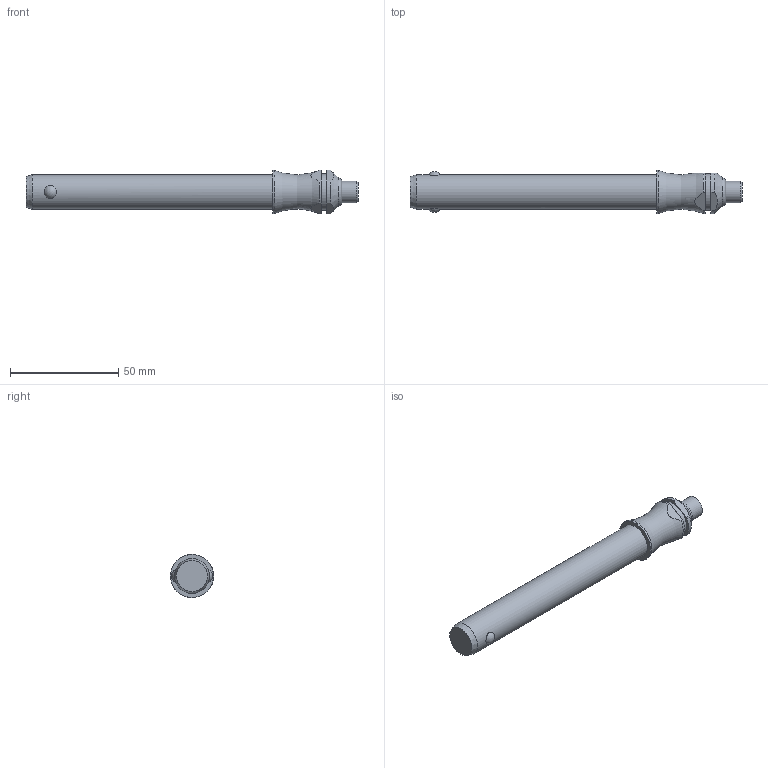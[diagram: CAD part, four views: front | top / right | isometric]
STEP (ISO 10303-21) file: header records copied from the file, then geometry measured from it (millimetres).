
FILE_DESCRIPTION( ( 'STEP AP203' ), '1' );
FILE_NAME( 'C:/Temp/Ganter_Step_05_03_2020/data/3_1/gn113_3/Stainless Steel-Ball lock pin GN 113.3-16-100 (deactivated).stp', '2020-03-12T08:18:57', ( 'License CC BY-ND 4.0' ), ( 'CADENAS' ), ' ', 'PARTsolutions', ' ' );
FILE_SCHEMA( ( 'CONFIG_CONTROL_DESIGN' ) );
Length unit declared in the file: millimetre
Products named in the file (1): _Stainless Steel-Ball lock pin GN 113.3-16-100 (deactivated)
Bounding box: 153.5 x 20 x 20 mm (x, y, z)
Volume: 30870.3 mm3; surface area: 8290.3 mm2
Topology: 1 solids, 1 shells, 28 faces, 60 edges, 39 vertices
Faces by surface type: plane 11, cylinder 10, cone 3, torus 2, sphere 2
Full cylindrical faces by diameter (mm): 10 x1, 16 x1, 17 x1, 20 x1
Entity records: 966 total; most frequent: CARTESIAN_POINT 350, DIRECTION 122, ORIENTED_EDGE 98, AXIS2_PLACEMENT_3D 52, EDGE_CURVE 49, EDGE_LOOP 42, VERTEX_POINT 38, FACE_OUTER_BOUND 34
